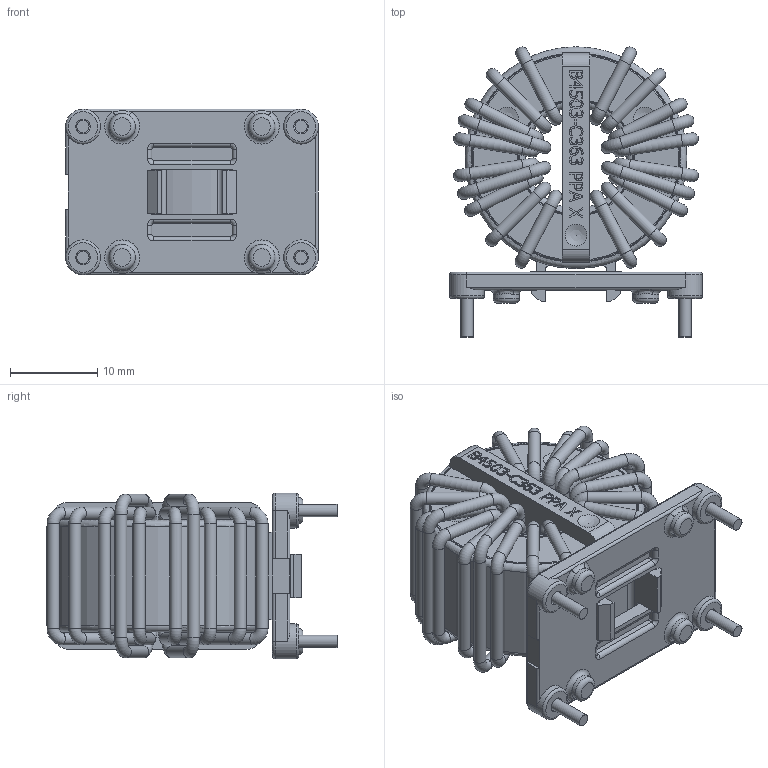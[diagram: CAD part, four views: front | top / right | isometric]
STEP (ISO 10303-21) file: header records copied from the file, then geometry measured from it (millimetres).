
FILE_DESCRIPTION(/* description */ (''),/* implementation_level */ '2;1');
FILE_NAME(/* name */ 'G:\KB-FTKon\CAD\Inventor\Bauelementnummer\6127-X019\6127-X019_Shrinkwrap_1.stp',/* time_stamp */ '2019-04-30T11:15:04+02:00',/* author */ ('de041100'),/* organization */ (''),/* preprocessor_version */ 'ST-DEVELOPER v17.2',/* originating_system */ 'Autodesk Inventor 2019',/* authorisation */ '');
FILE_SCHEMA (('AUTOMOTIVE_DESIGN { 1 0 10303 214 3 1 1 }'));
Length unit declared in the file: millimetre
Products named in the file (1): 6127-X019_Shrinkwrap_1
Bounding box: 29 x 33.25 x 19 mm (x, y, z)
Volume: 8056.1 mm3; surface area: 8953.8 mm2
Topology: 19 solids, 19 shells, 1360 faces, 3855 edges, 2544 vertices
Faces by surface type: plane 552, bspline 435, cylinder 199, torus 156, sphere 14, cone 4
Full cylindrical faces by diameter (mm): 1.4 x78, 1.7 x4, 3 x4, 4 x4, 11.6 x1, 13.2 x1, 23.8 x1, 25.4 x1
Entity records: 49662 total; most frequent: CARTESIAN_POINT 15178, ORIENTED_EDGE 7684, DIRECTION 5650, EDGE_CURVE 3842, VERTEX_POINT 2544, LINE 1918, VECTOR 1918, AXIS2_PLACEMENT_3D 1866
